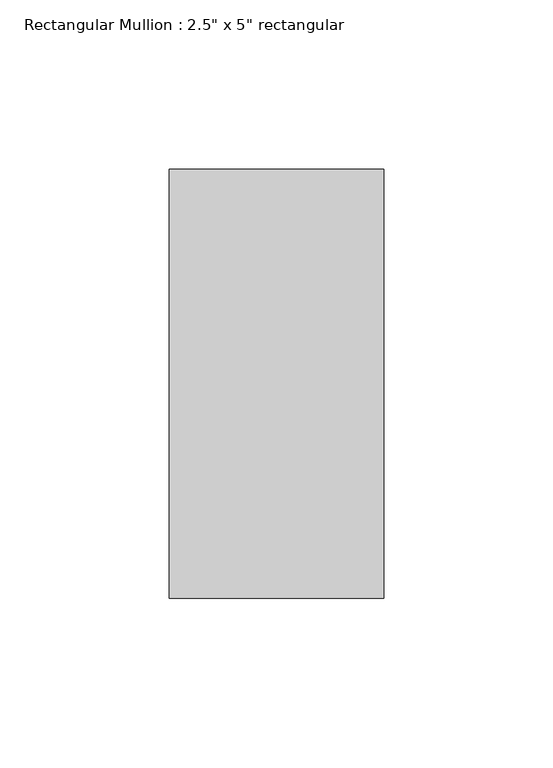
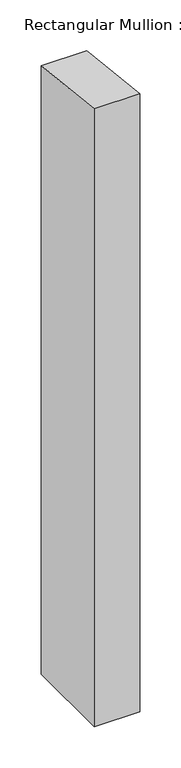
"""IFC4 building model written with IfcOpenShell, lengths in millimetres: member geometry."""

from ifc_helpers import new_model, si_unit, frame, origin, place, context, project, spatial, polyline, outline, extrude, source, transform, mapped, element, save


def member_d8b564d6(model_context):
    return source(origin(), model_context, "Body", "SweptSolid", [
        extrude(outline(polyline([(-63.5, 6.7446056), (63.5, -6.7446056), (63.5, -903.8221115), (-63.5, -903.8221115), (-63.5, 6.7446056)])), frame((-63.5, 0.0, 0.0), z_axis=(1.0, 0.0, 0.0), x_axis=(0.0, 1.0, 0.0)), (0.0, 0.0, 1.0), 63.5),
    ])


if __name__ == "__main__":
    model = new_model("IFC4")
    model_context = context("Model", 3, world=origin())
    ifc_project = project(units=[si_unit("LENGTHUNIT", "METRE", prefix="MILLI")], contexts=[model_context])
    site = spatial("IfcSite", under=ifc_project)
    building = spatial("IfcBuilding", under=site)
    placement = place(None, origin())
    member_shape = member_d8b564d6(model_context)
    element("IfcMember", 1, ObjectType="Rectangular Mullion : 2.5\" x 5\" rectangular", at=placement, inside=building, context=model_context, shape_type="MappedRepresentation", body=[
        mapped(member_shape, transform((0.0, 0.0, 0.0), x_axis=(1.0, 0.0, 0.0), y_axis=(0.0, 1.0, 0.0), z_axis=(0.0, 0.0, 1.0))),
    ])
    save(model, "model.ifc")
